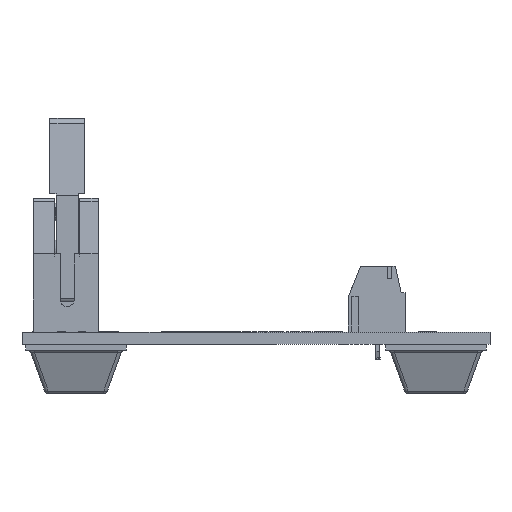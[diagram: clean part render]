
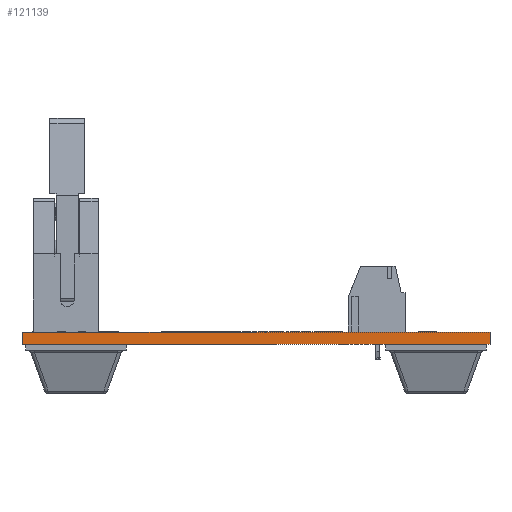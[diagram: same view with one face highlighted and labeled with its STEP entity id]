
A CAD part, front view. The second image highlights one B-rep face of the part: STEP entity #121139.
In plain terms, the highlighted planar face has unit normal (0, -1, 0).
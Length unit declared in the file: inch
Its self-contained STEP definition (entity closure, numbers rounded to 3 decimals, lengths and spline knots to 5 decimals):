
#280 = EDGE_CURVE ( 'NONE', #41453, #75813, #60620, .T. ) ;
#453 = EDGE_CURVE ( 'NONE', #41453, #16317, #1469, .T. ) ;
#1395 = DIRECTION ( 'NONE',  ( 0., 0., -1. ) ) ;
#1469 = LINE ( 'NONE', #32055, #9615 ) ;
#1918 = VECTOR ( 'NONE', #118206, 39.37008 ) ;
#4977 = EDGE_CURVE ( 'NONE', #75813, #26529, #15427, .T. ) ;
#5188 = LINE ( 'NONE', #13742, #1918 ) ;
#9615 = VECTOR ( 'NONE', #1395, 39.37008 ) ;
#13742 = CARTESIAN_POINT ( 'NONE',  ( 0., 3.85, 0. ) ) ;
#14849 = CARTESIAN_POINT ( 'NONE',  ( 0., 3.85, 0.0625 ) ) ;
#15427 = LINE ( 'NONE', #72488, #95761 ) ;
#16317 = VERTEX_POINT ( 'NONE', #106237 ) ;
#17850 = CARTESIAN_POINT ( 'NONE',  ( 18.81, 3.85, 0.0625 ) ) ;
#25367 = DIRECTION ( 'NONE',  ( 0., 0., 1. ) ) ;
#26529 = VERTEX_POINT ( 'NONE', #67995 ) ;
#30177 = ORIENTED_EDGE ( 'NONE', *, *, #280, .F. ) ;
#32055 = CARTESIAN_POINT ( 'NONE',  ( 18.81, 3.85, 0.0625 ) ) ;
#34340 = EDGE_LOOP ( 'NONE', ( #97160, #37460, #30177, #74761 ) ) ;
#37460 = ORIENTED_EDGE ( 'NONE', *, *, #4977, .F. ) ;
#40890 = CARTESIAN_POINT ( 'NONE',  ( 21.19, 3.85, 0.0625 ) ) ;
#41453 = VERTEX_POINT ( 'NONE', #17850 ) ;
#44627 = DIRECTION ( 'NONE',  ( 0., 1., 0. ) ) ;
#51863 = DIRECTION ( 'NONE',  ( 0., 0., -1. ) ) ;
#53937 = CARTESIAN_POINT ( 'NONE',  ( 0., 3.85, 0.0625 ) ) ;
#60620 = LINE ( 'NONE', #53937, #117908 ) ;
#66732 = FACE_OUTER_BOUND ( 'NONE', #34340, .T. ) ;
#67995 = CARTESIAN_POINT ( 'NONE',  ( 21.19, 3.85, 0. ) ) ;
#72488 = CARTESIAN_POINT ( 'NONE',  ( 21.19, 3.85, 0.0625 ) ) ;
#74761 = ORIENTED_EDGE ( 'NONE', *, *, #453, .T. ) ;
#75813 = VERTEX_POINT ( 'NONE', #40890 ) ;
#89654 = EDGE_CURVE ( 'NONE', #16317, #26529, #5188, .T. ) ;
#90625 = AXIS2_PLACEMENT_3D ( 'NONE', #14849, #44627, #25367 ) ;
#95761 = VECTOR ( 'NONE', #51863, 39.37008 ) ;
#97160 = ORIENTED_EDGE ( 'NONE', *, *, #89654, .T. ) ;
#105624 = PLANE ( 'NONE',  #90625 ) ;
#106237 = CARTESIAN_POINT ( 'NONE',  ( 18.81, 3.85, 0. ) ) ;
#115410 = DIRECTION ( 'NONE',  ( 1., 0., 0. ) ) ;
#117908 = VECTOR ( 'NONE', #115410, 39.37008 ) ;
#118206 = DIRECTION ( 'NONE',  ( 1., 0., 0. ) ) ;
#121139 = ADVANCED_FACE ( 'NONE', ( #66732 ), #105624, .F. ) ;
